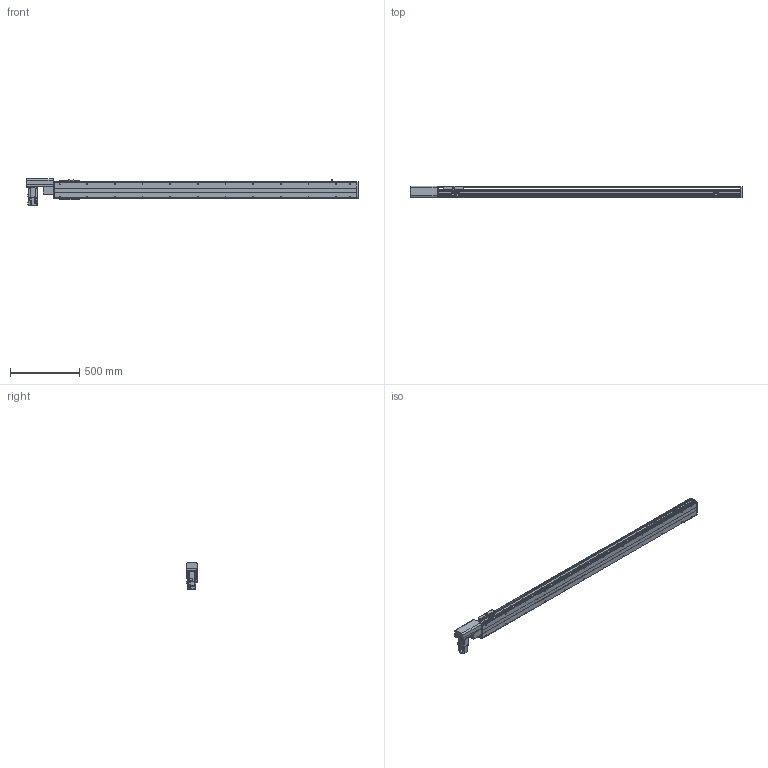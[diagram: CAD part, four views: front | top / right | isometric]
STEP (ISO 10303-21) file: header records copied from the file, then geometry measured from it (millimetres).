
FILE_DESCRIPTION(/* description */ ('STEP AP214'),/* implementation_level */ '2;1');
FILE_NAME(/* name */ 'PBS120-P40-S1900-R-T40-C1-N(0)',/* time_stamp */ '2022-06-06T02:08:47+02:00',/* author */ ('License CC BY-ND 4.0'),/* organization */ ('CADENAS'),/* preprocessor_version */ 'ST-DEVELOPER v18.102',/* originating_system */ 'PARTsolutions',/* authorisation */ ' ');
FILE_SCHEMA (('AUTOMOTIVE_DESIGN {1 0 10303 214 3 1 1}'));
Length unit declared in the file: millimetre
Products named in the file (7): PBS120-P40-S1900-R-T40-C1-N(0); PBS120_sensor; PBS120_plant; PBS120_sliser; T40-p1; PBS120T-R_motors; PBS120-S1900()_body
Assembly tree (8 placements, depth 2):
  PBS120-P40-S1900-R-T40-C1-N(0)
    PBS120_sensor  x3
    PBS120_plant
    PBS120_sliser
    T40-p1
    PBS120T-R_motors
    PBS120-S1900()_body
Bounding box: 2401 x 83 x 189.7 mm (x, y, z)
Volume: 8890646.9 mm3; surface area: 1810167.7 mm2
Topology: 8 solids, 8 shells, 852 faces, 2196 edges, 1411 vertices
Faces by surface type: plane 557, cylinder 237, cone 56, torus 2
Full cylindrical faces by diameter (mm): 2.459 x6, 3.242 x4, 4 x2, 4.134 x4, 4.5 x10, 4.917 x28, 5.5 x11, 6 x2, 6.6 x1, 7 x2, 8.5 x4, 9 x4, 12 x1, 14 x1, 30 x2, 40 x1, 50 x2
Entity records: 22074 total; most frequent: DIRECTION 3836, CARTESIAN_POINT 3749, ORIENTED_EDGE 3550, EDGE_CURVE 1775, AXIS2_PLACEMENT_3D 1304, LINE 1228, VECTOR 1228, VERTEX_POINT 1217
